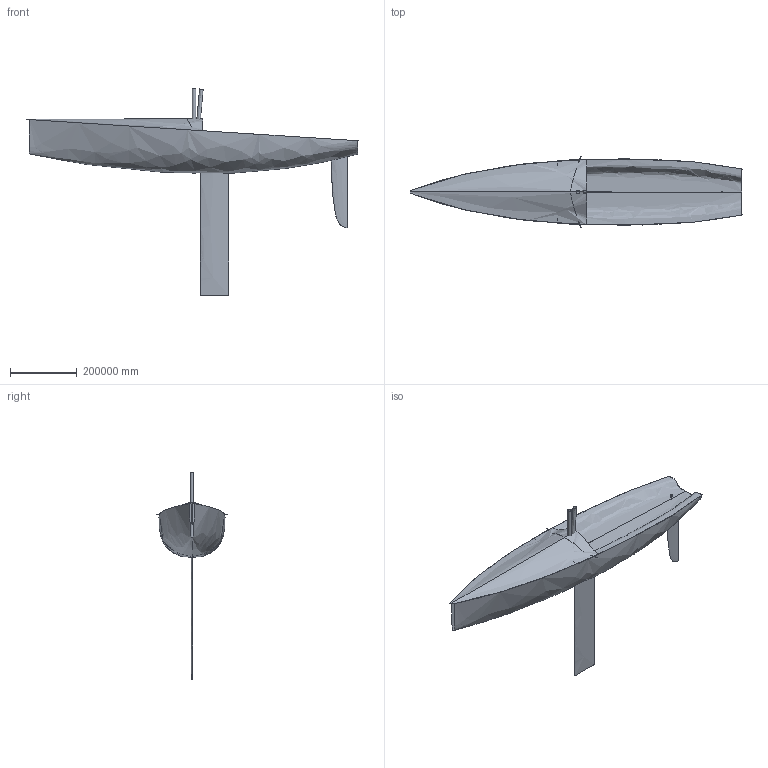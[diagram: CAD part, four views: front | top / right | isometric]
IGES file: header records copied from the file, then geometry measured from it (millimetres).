
Start section: IGES 5.2 file written by MultiSurf 03-May-2006  20:38:23 Model file: NOUX2_2006MAR27_KEELBOX
Global section: file name: C:\WINDOWS\TEMP\~MS468.tmp; native system: MultiSurf 4.7.1; preprocessor: RGKernel 2.50; author: NO_AUTHOR; organization: NO_COMPANY; date: 060503.203823; units: metre
Bounding box: 997357.15 x 215800 x 620000 mm (x, y, z)
Surface area: 646594351609.1 mm2 (no closed solid volume)
Topology: 0 solids, 0 shells, 22 faces, 210 edges, 530 vertices
Faces by surface type: bspline 22
